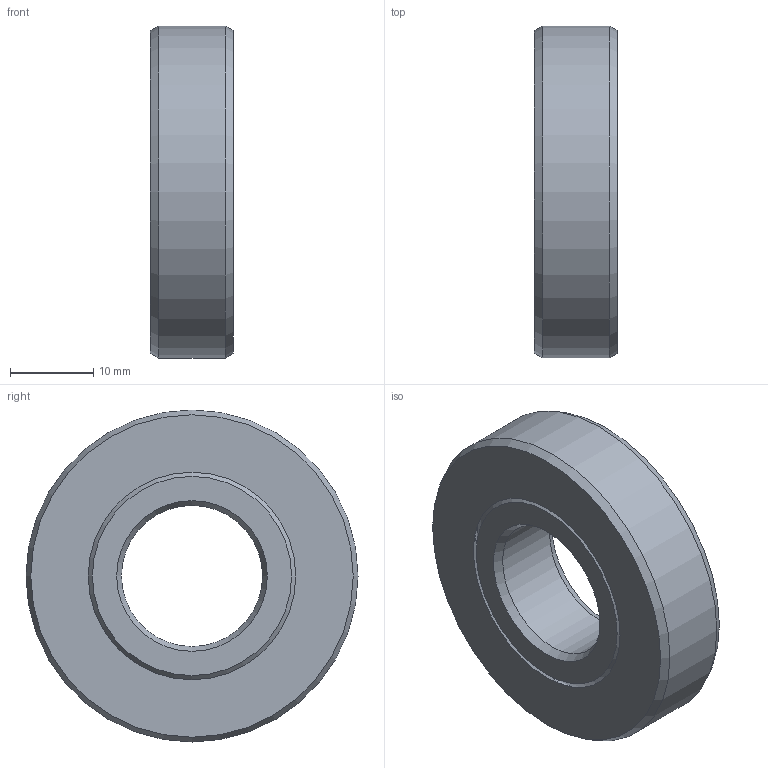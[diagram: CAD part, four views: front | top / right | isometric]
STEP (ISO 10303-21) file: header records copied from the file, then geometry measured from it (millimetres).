
FILE_DESCRIPTION(/* description */ (''),/* implementation_level */ '2;1');
FILE_NAME(/* name */ '301771 SA 17x40x10.stp',/* time_stamp */ '2016-12-16T15:46:30+01:00',/* author */ (''),/* organization */ (''),/* preprocessor_version */ 'ST-DEVELOPER v15',/* originating_system */ 'SIEMENS PLM Software NX 8.5',/* authorisation */ '');
FILE_SCHEMA (('CONFIG_CONTROL_DESIGN'));
Length unit declared in the file: millimetre
Products named in the file (1): ATE0000144_01
Bounding box: 10 x 40 x 40 mm (x, y, z)
Volume: 9654.5 mm3; surface area: 5881.4 mm2
Topology: 2 solids, 2 shells, 18 faces, 37 edges, 23 vertices
Faces by surface type: cone 10, plane 5, cylinder 3
Full cylindrical faces by diameter (mm): 17 x1, 40 x1
Entity records: 492 total; most frequent: DIRECTION 76, CARTESIAN_POINT 74, ORIENTED_EDGE 46, AXIS2_PLACEMENT_3D 38, EDGE_LOOP 33, FACE_BOUND 30, EDGE_CURVE 23, VERTEX_POINT 20
